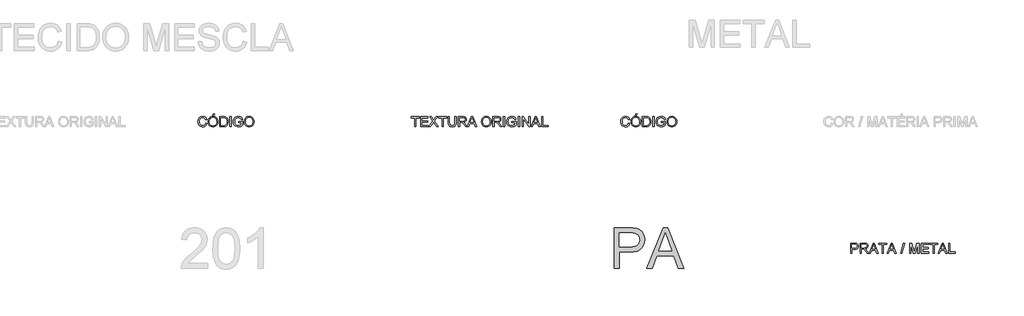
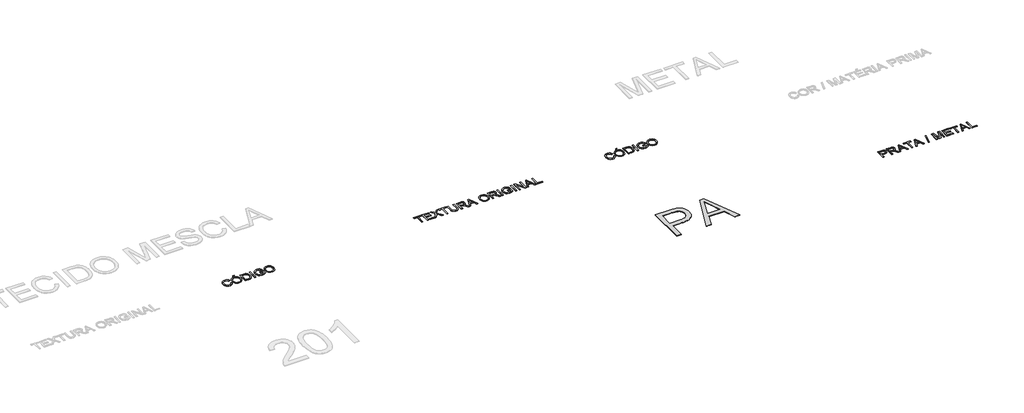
# One storey, part 16 of 19: 5 proxies.
"""IFC4 building model written with IfcOpenShell, lengths in millimetres."""

from ifc_helpers import new_model, si_unit, origin, origin_with_axes, place, context, project, spatial, polyline, outline, extrude, element, save

model = new_model("IFC4")

# Units and contexts
model_context = context("Model", 3, world=origin())
ifc_project = project(units=[si_unit("LENGTHUNIT", "METRE", prefix="MILLI")], contexts=[model_context])

# Site, building, storey
site = spatial("IfcSite", under=ifc_project)
building = spatial("IfcBuilding", under=site)
storey = spatial("IfcBuildingStorey", under=building, Name="Marelli - Linha ACTIVE - Planta Baixa", Elevation=0.0)

# Proxies
placement = place(None, origin())
element("IfcBuildingElementProxy", 1, Name="1200mm Arial", ObjectType="1200mm Arial", at=placement, inside=storey, context=model_context, shape_type="SweptSolid", body=[
    extrude(outline(polyline([(12375.3752953, -108980.5663201), (12375.3752953, -107775.0905983), (12822.1311902, -107775.0905983), (12926.1682184, -107777.9600778), (13002.246215, -107786.5685165), (13044.1755654, -107795.6092166), (13082.5548546, -107808.0160368), (13117.3840825, -107823.7889774), (13148.6632491, -107842.9280382), (13176.7234483, -107865.8286924), (13201.8957738, -107892.8864131), (13224.1802257, -107924.1012004), (13243.5768039, -107959.4730543), (13259.2853651, -107997.8339493), (13270.5057659, -108038.0158602), (13277.2380064, -108080.018787), (13279.4820866, -108123.8427297), (13273.4212307, -108197.842193), (13265.8451609, -108232.6208372), (13255.2386631, -108265.9187562), (13241.6017374, -108297.7359503), (13224.9343838, -108328.0724193), (13205.2366022, -108356.9281633), (13182.5083927, -108384.3031823), (13155.8254517, -108409.2731727), (13124.2634758, -108430.9138311), (13087.8224649, -108449.2251574), (13046.5024191, -108464.2071516), (13000.3033382, -108475.8598138), (12949.2252225, -108484.183144), (12893.2680718, -108489.1771421), (12832.4318861, -108490.8418081), (12526.0597605, -108490.8418081), (12526.0597605, -108980.5663201), (12375.3752953, -108980.5663201)]), holes=[polyline([(12526.0597605, -108340.1573429), (12841.2610539, -108340.1573429), (12913.733807, -108336.6992521), (12974.8757946, -108326.3249798), (13024.6870167, -108309.0345261), (13063.1674734, -108284.8278908), (13091.8806632, -108254.3488675), (13112.3900844, -108218.2412497), (13124.6957371, -108176.5050373), (13128.7976214, -108129.1402304), (13126.3787973, -108093.9707117), (13119.1223249, -108061.4499433), (13107.0282043, -108031.5779253), (13090.0964355, -108004.3546577), (13069.2283293, -107980.6630572), (13045.3251967, -107961.3860406), (13018.3870376, -107946.523608), (12988.413852, -107936.0757594), (12930.2884968, -107928.3502375), (12837.7293868, -107925.7750635), (12526.0597605, -107925.7750635), (12526.0597605, -108340.1573429)])]), origin_with_axes(), (0.0, 0.0, 1.0), 10.0),
    extrude(outline(polyline([(13346.2894569, -108980.5663201), (13827.4791066, -107775.0905983), (13955.7963465, -107775.0905983), (14436.9859962, -108980.5663201), (14277.7666687, -108980.5663201), (14139.7373441, -108603.855157), (13643.2438034, -108603.855157), (13505.5087844, -108980.5663201), (13346.2894569, -108980.5663201)]), holes=[polyline([(13698.5732555, -108453.1706918), (14084.7021976, -108453.1706918), (13976.1034327, -108156.8049565), (13891.6377266, -107925.7750635), (13816.5897996, -108130.906064), (13698.5732555, -108453.1706918)])]), origin_with_axes(), (0.0, 0.0, 1.0), 10.0),
])
element("IfcBuildingElementProxy", 2, Name="300mm Arial", ObjectType="300mm Arial", at=placement, inside=storey, context=model_context, shape_type="SweptSolid", body=[
    extrude(outline(polyline([(12799.1753537, -104673.4390831), (12836.84647, -104683.1511677), (12829.3922611, -104706.5783531), (12819.4640457, -104727.0486868), (12807.061824, -104744.5621691), (12792.1855958, -104759.1187998), (12775.1710535, -104770.5622291), (12756.3538895, -104778.7361071), (12735.7341036, -104783.640434), (12713.311696, -104785.2752096), (12669.616512, -104780.3271968), (12634.9160429, -104765.4831583), (12608.3181746, -104741.2581289), (12588.9307935, -104708.1671434), (12577.0941903, -104669.2636224), (12573.1486559, -104627.6009865), (12577.6092251, -104583.6574822), (12590.9909326, -104545.7104543), (12612.5948028, -104514.9647166), (12641.7218598, -104492.6250824), (12676.2659791, -104479.0226457), (12714.1210364, -104474.4885001), (12755.4249874, -104480.3562179), (12773.3937236, -104487.6908652), (12789.5736336, -104497.9593714), (12803.698003, -104510.8904235), (12815.5001172, -104526.2127086), (12832.1375805, -104564.0309777), (12794.4664642, -104573.0072984), (12781.4066533, -104545.5357104), (12763.5643766, -104526.6909552), (12740.7189047, -104515.7924511), (12712.6495084, -104512.1596164), (12680.294287, -104516.1879242), (12653.7148128, -104528.2728478), (12633.5456824, -104547.1451941), (12620.4214922, -104571.5357704), (12613.2202022, -104599.1085259), (12610.8197722, -104627.5274101), (12613.6616606, -104662.3290468), (12622.1873258, -104692.421794), (12636.7186646, -104716.6560205), (12657.5775738, -104733.8820949), (12682.5843524, -104744.1735937), (12709.5592997, -104747.6040933), (12741.0040132, -104742.931992), (12767.2064083, -104728.9156879), (12786.9892626, -104705.7023341), (12799.1753537, -104673.4390831)])), origin_with_axes(), (0.0, 0.0, 1.0), 10.0),
    extrude(outline(polyline([(12874.5175863, -104633.8549804), (12877.0283809, -104598.5061192), (12884.5607648, -104567.213157), (12897.1147379, -104539.9760937), (12914.6903002, -104516.7949295), (12936.2343895, -104498.2858666), (12960.6939437, -104485.0651074), (12988.0689626, -104477.1326519), (13018.3594464, -104474.4885001), (13057.8883668, -104479.454907), (13093.333797, -104494.3541278), (13122.7643567, -104518.1376988), (13144.2486652, -104549.7571563), (13157.3820524, -104587.68579), (13161.7598481, -104630.3968896), (13157.1521262, -104673.6782064), (13143.3289602, -104712.140269), (13121.0537054, -104743.8149088), (13091.0897169, -104766.7339571), (13055.9477893, -104780.6398965), (13018.1387172, -104785.2752096), (12978.0027916, -104780.1524528), (12942.3550262, -104764.7841825), (12912.998043, -104740.5591531), (12891.7344637, -104708.8661192), (12878.8218057, -104672.3998164), (12874.5175863, -104633.8549804)]), holes=[polyline([(12912.1887026, -104634.2228624), (12914.0717986, -104659.1974513), (12919.7210865, -104681.3669401), (12929.1365663, -104700.7313286), (12942.318238, -104717.2906169), (12958.3417982, -104730.5527628), (12976.2829432, -104740.0257242), (12996.1416732, -104745.709501), (13017.917988, -104747.6040933), (13040.0667834, -104745.6911069), (13060.1600381, -104739.9521478), (13078.1977522, -104730.3872159), (13094.1799256, -104716.9963113), (13107.2650283, -104700.0875351), (13116.6115303, -104679.9689885), (13122.2194315, -104656.6406715), (13124.0887318, -104630.102584), (13120.8881585, -104596.7540812), (13111.2864384, -104567.9305269), (13095.531892, -104544.358488), (13073.8728395, -104526.7645316), (13047.7440208, -104515.8108452), (13018.5801756, -104512.1596164), (12997.5603181, -104513.9185522), (12978.0579739, -104519.1953595), (12960.0731428, -104527.9900385), (12943.605825, -104540.302589), (12929.860834, -104556.7262208), (12920.0429832, -104577.8541437), (12914.1522728, -104603.6863575), (12912.1887026, -104634.2228624)])]), origin_with_axes(), (0.0, 0.0, 1.0), 10.0),
    extrude(outline(polyline([(12992.2398248, -104460.3618315), (13020.493162, -104403.855157), (13067.5820574, -104403.855157), (13020.493162, -104460.3618315), (12992.2398248, -104460.3618315)])), origin_with_axes(), (0.0, 0.0, 1.0), 10.0),
    extrude(outline(polyline([(13213.5576331, -104780.5663201), (13213.5576331, -104479.1973896), (13317.5210849, -104479.1973896), (13371.3054326, -104483.5383972), (13395.3281269, -104491.9077126), (13415.5984248, -104505.0962821), (13436.4389398, -104528.0521186), (13451.2829783, -104556.5997614), (13460.1673285, -104590.1873876), (13463.1287786, -104628.2631741), (13461.1238217, -104660.6091985), (13455.1089511, -104689.0740679), (13445.9486894, -104713.3082943), (13434.5075594, -104732.9623899), (13421.3373839, -104748.477813), (13406.9899861, -104760.2960221), (13390.5180698, -104769.0608107), (13370.9743388, -104775.4159721), (13322.52428, -104780.5663201), (13213.5576331, -104780.5663201)]), holes=[polyline([(13251.2287494, -104742.8952038), (13317.8889669, -104742.8952038), (13345.4617224, -104741.5340404), (13366.3758139, -104737.4505502), (13382.1579515, -104730.8838566), (13394.3348455, -104722.0730828), (13407.4222475, -104705.7667134), (13417.2538938, -104684.6594839), (13423.4067202, -104658.6594239), (13425.4576623, -104627.6745629), (13421.4385515, -104586.6189322), (13409.3812191, -104556.3054558), (13391.5665335, -104535.4833349), (13370.275363, -104522.9017706), (13348.6071135, -104518.3768221), (13316.8588973, -104516.8685059), (13251.2287494, -104516.8685059), (13251.2287494, -104742.8952038)])]), origin_with_axes(), (0.0, 0.0, 1.0), 10.0),
    extrude(outline(polyline([(13519.6354531, -104780.5663201), (13519.6354531, -104479.1973896), (13557.3065694, -104479.1973896), (13557.3065694, -104780.5663201), (13519.6354531, -104780.5663201)])), origin_with_axes(), (0.0, 0.0, 1.0), 10.0),
    extrude(outline(polyline([(13773.9154881, -104662.8440816), (13773.9154881, -104625.1729653), (13896.3466161, -104625.1729653), (13896.3466161, -104737.8184322), (13866.5941598, -104758.5117945), (13835.9036043, -104773.355833), (13804.3485262, -104782.2953654), (13772.0025017, -104785.2752096), (13729.7420575, -104780.5387289), (13691.5467094, -104766.3292869), (13659.8168873, -104743.1435241), (13636.9530213, -104711.4780814), (13623.1298553, -104673.4942654), (13618.5221334, -104631.3533828), (13623.1114612, -104588.9089976), (13636.8794449, -104549.4260625), (13659.2558673, -104516.3074859), (13689.6705112, -104492.9561762), (13726.7162281, -104479.1054191), (13768.9858694, -104474.4885001), (13800.0167157, -104477.1648416), (13827.920565, -104485.1938661), (13851.4190275, -104497.9961596), (13869.2337131, -104514.9923078), (13882.4130855, -104537.0008481), (13892.0056086, -104564.8403181), (13857.2775482, -104574.6259792), (13849.5244352, -104554.7695485), (13840.0974591, -104539.7875542), (13827.6262594, -104528.493577), (13810.7404758, -104519.7011973), (13790.6081337, -104514.0450116), (13768.3972582, -104512.1596164), (13742.3971982, -104514.1921644), (13720.1679286, -104520.2898085), (13701.792223, -104529.6891935), (13687.3528547, -104541.6269642), (13667.9654735, -104570.6528536), (13659.1363056, -104599.0901318), (13656.1932497, -104629.8082784), (13659.7341139, -104665.8331228), (13670.3567065, -104695.4752146), (13687.7391307, -104718.5230216), (13711.5594899, -104734.7650117), (13739.4357481, -104744.3943229), (13768.9858694, -104747.6040933), (13795.0778999, -104745.1852692), (13820.5261369, -104737.9287968), (13842.6266478, -104727.9316036), (13858.6754998, -104717.2906169), (13858.6754998, -104662.8440816), (13773.9154881, -104662.8440816)])), origin_with_axes(), (0.0, 0.0, 1.0), 10.0),
    extrude(outline(polyline([(13943.4355115, -104633.8549804), (13945.9463061, -104598.5061192), (13953.47869, -104567.213157), (13966.0326631, -104539.9760937), (13983.6082254, -104516.7949295), (14005.1523147, -104498.2858666), (14029.6118689, -104485.0651074), (14056.9868878, -104477.1326519), (14087.2773716, -104474.4885001), (14126.806292, -104479.454907), (14162.2517222, -104494.3541278), (14191.6822818, -104518.1376988), (14213.1665904, -104549.7571563), (14226.2999776, -104587.68579), (14230.6777733, -104630.3968896), (14226.0700513, -104673.6782064), (14212.2468854, -104712.140269), (14189.9716306, -104743.8149088), (14160.0076421, -104766.7339571), (14124.8657145, -104780.6398965), (14087.0566424, -104785.2752096), (14046.9207167, -104780.1524528), (14011.2729514, -104764.7841825), (13981.9159682, -104740.5591531), (13960.6523889, -104708.8661192), (13947.7397308, -104672.3998164), (13943.4355115, -104633.8549804)]), holes=[polyline([(13981.1066278, -104634.2228624), (13982.9897238, -104659.1974513), (13988.6390117, -104681.3669401), (13998.0544915, -104700.7313286), (14011.2361632, -104717.2906169), (14027.2597234, -104730.5527628), (14045.2008684, -104740.0257242), (14065.0595984, -104745.709501), (14086.8359132, -104747.6040933), (14108.9847086, -104745.6911069), (14129.0779633, -104739.9521478), (14147.1156774, -104730.3872159), (14163.0978508, -104716.9963113), (14176.1829535, -104700.0875351), (14185.5294555, -104679.9689885), (14191.1373566, -104656.6406715), (14193.006657, -104630.102584), (14189.8060837, -104596.7540812), (14180.2043636, -104567.9305269), (14164.4498171, -104544.358488), (14142.7907647, -104526.7645316), (14116.661946, -104515.8108452), (14087.4981008, -104512.1596164), (14066.4782433, -104513.9185522), (14046.975899, -104519.1953595), (14028.991068, -104527.9900385), (14012.5237502, -104540.302589), (13998.7787591, -104556.7262208), (13988.9609084, -104577.8541437), (13983.070198, -104603.6863575), (13981.1066278, -104634.2228624)])]), origin_with_axes(), (0.0, 0.0, 1.0), 10.0),
])
element("IfcBuildingElementProxy", 3, Name="300mm Arial", ObjectType="300mm Arial", at=placement, inside=storey, context=model_context, shape_type="SweptSolid", body=[
    extrude(outline(polyline([(6478.3318382, -104780.5663201), (6478.3318382, -104516.8685059), (6379.4451579, -104516.8685059), (6379.4451579, -104479.1973896), (6614.8896348, -104479.1973896), (6614.8896348, -104516.8685059), (6516.0029545, -104516.8685059), (6516.0029545, -104780.5663201), (6478.3318382, -104780.5663201)])), origin_with_axes(), (0.0, 0.0, 1.0), 10.0),
    extrude(outline(polyline([(6657.2696407, -104780.5663201), (6657.2696407, -104479.1973896), (6873.8785594, -104479.1973896), (6873.8785594, -104516.8685059), (6694.940757, -104516.8685059), (6694.940757, -104606.3374072), (6864.4607804, -104606.3374072), (6864.4607804, -104644.0085235), (6694.940757, -104644.0085235), (6694.940757, -104742.8952038), (6878.587449, -104742.8952038), (6878.587449, -104780.5663201), (6657.2696407, -104780.5663201)])), origin_with_axes(), (0.0, 0.0, 1.0), 10.0),
    extrude(outline(polyline([(6902.1318967, -104780.5663201), (7018.3090307, -104616.3437974), (6920.9674548, -104479.1973896), (6966.1433638, -104479.1973896), (7020.9577811, -104556.3790322), (7039.4254573, -104586.4717794), (7061.0569186, -104555.8639974), (7115.2827247, -104479.1973896), (7161.1208213, -104479.1973896), (7063.7792453, -104616.7852558), (7179.9563794, -104780.5663201), (7134.7804704, -104780.5663201), (7057.3780986, -104671.3789439), (7041.2648672, -104648.717413), (7023.5329551, -104673.5862359), (6947.9699933, -104780.5663201), (6902.1318967, -104780.5663201)])), origin_with_axes(), (0.0, 0.0, 1.0), 10.0),
    extrude(outline(polyline([(7292.9697283, -104780.5663201), (7292.9697283, -104516.8685059), (7194.083048, -104516.8685059), (7194.083048, -104479.1973896), (7429.5275249, -104479.1973896), (7429.5275249, -104516.8685059), (7330.6408446, -104516.8685059), (7330.6408446, -104780.5663201), (7292.9697283, -104780.5663201)])), origin_with_axes(), (0.0, 0.0, 1.0), 10.0),
    extrude(outline(polyline([(7669.6808914, -104479.1973896), (7707.3520077, -104479.1973896), (7707.3520077, -104653.0584205), (7704.7952278, -104693.7737604), (7697.1248882, -104725.1265034), (7682.7958845, -104749.3147446), (7660.2631123, -104768.5365788), (7629.4713893, -104781.0905519), (7590.3655332, -104785.2752096), (7552.1150028, -104781.6331779), (7521.5348119, -104770.7070826), (7498.6157636, -104752.8740029), (7483.3486608, -104728.5110178), (7474.7678133, -104695.8338995), (7471.9075308, -104653.0584205), (7471.9075308, -104479.1973896), (7509.5786471, -104479.1973896), (7509.5786471, -104651.7340454), (7511.4364512, -104685.588386), (7517.0098634, -104709.1604248), (7527.1082242, -104725.4851883), (7542.5408739, -104737.597703), (7562.664019, -104745.1024957), (7586.8338661, -104747.6040933), (7625.1487759, -104742.6560805), (7639.4915752, -104736.4710644), (7650.624604, -104727.812042), (7658.9617298, -104715.6351479), (7664.9168196, -104698.8965171), (7669.6808914, -104651.7340454), (7669.6808914, -104479.1973896)])), origin_with_axes(), (0.0, 0.0, 1.0), 10.0),
    extrude(outline(polyline([(7773.2764612, -104780.5663201), (7773.2764612, -104479.1973896), (7903.1388055, -104479.1973896), (7938.0416098, -104481.2299376), (7963.4346645, -104487.3275817), (7981.9943112, -104498.5847708), (7996.3968913, -104516.0959537), (8005.6399264, -104537.8101885), (8008.7209382, -104561.6765329), (8003.6165755, -104591.36461), (7988.3034874, -104615.9759154), (7976.7037083, -104626.0052983), (7962.3218215, -104634.0205273), (7925.2117252, -104644.0085235), (7946.6224574, -104660.1217548), (7977.156663, -104698.8965171), (8027.4093435, -104780.5663201), (7983.6313861, -104780.5663201), (7944.4151654, -104718.0999573), (7916.0882518, -104676.750021), (7896.1858358, -104657.2154871), (7878.2699827, -104650.0417882), (7856.4177921, -104648.717413), (7810.9475775, -104648.717413), (7810.9475775, -104780.5663201), (7773.2764612, -104780.5663201)]), holes=[polyline([(7810.9475775, -104611.0462967), (7895.2661308, -104611.0462967), (7919.4819632, -104609.7127245), (7938.2715361, -104605.7120078), (7952.4165988, -104598.7774322), (7962.6989006, -104588.6422832), (7968.9620915, -104576.3826157), (7971.0498218, -104563.0744845), (7967.0674992, -104544.6987789), (7955.1205315, -104529.8915286), (7934.565125, -104520.1242616), (7904.7574863, -104516.8685059), (7810.9475775, -104516.8685059), (7810.9475775, -104611.0462967)])]), origin_with_axes(), (0.0, 0.0, 1.0), 10.0),
    extrude(outline(polyline([(8039.5494493, -104780.5663201), (8159.8468618, -104479.1973896), (8191.9261717, -104479.1973896), (8312.2235842, -104780.5663201), (8272.4187523, -104780.5663201), (8237.9114211, -104686.3885293), (8113.788036, -104686.3885293), (8079.3542812, -104780.5663201), (8039.5494493, -104780.5663201)]), holes=[polyline([(8127.620399, -104648.717413), (8224.1526345, -104648.717413), (8197.0029433, -104574.6259792), (8175.8865168, -104516.8685059), (8157.124535, -104568.1512561), (8127.620399, -104648.717413)])]), origin_with_axes(), (0.0, 0.0, 1.0), 10.0),
    extrude(outline(polyline([(8456.0654443, -104633.8549804), (8458.5762389, -104598.5061192), (8466.1086228, -104567.213157), (8478.6625958, -104539.9760937), (8496.2381582, -104516.7949295), (8517.7822475, -104498.2858666), (8542.2418017, -104485.0651074), (8569.6168206, -104477.1326519), (8599.9073044, -104474.4885001), (8639.4362248, -104479.454907), (8674.881655, -104494.3541278), (8704.3122146, -104518.1376988), (8725.7965231, -104549.7571563), (8738.9299104, -104587.68579), (8743.3077061, -104630.3968896), (8738.6999841, -104673.6782064), (8724.8768182, -104712.140269), (8702.6015634, -104743.8149088), (8672.6375748, -104766.7339571), (8637.4956473, -104780.6398965), (8599.6865752, -104785.2752096), (8559.5506495, -104780.1524528), (8523.9028842, -104764.7841825), (8494.545901, -104740.5591531), (8473.2823217, -104708.8661192), (8460.3696636, -104672.3998164), (8456.0654443, -104633.8549804)]), holes=[polyline([(8493.7365606, -104634.2228624), (8495.6196566, -104659.1974513), (8501.2689444, -104681.3669401), (8510.6844243, -104700.7313286), (8523.866096, -104717.2906169), (8539.8896561, -104730.5527628), (8557.8308012, -104740.0257242), (8577.6895312, -104745.709501), (8599.465846, -104747.6040933), (8621.6146414, -104745.6911069), (8641.7078961, -104739.9521478), (8659.7456102, -104730.3872159), (8675.7277836, -104716.9963113), (8688.8128863, -104700.0875351), (8698.1593883, -104679.9689885), (8703.7672894, -104656.6406715), (8705.6365898, -104630.102584), (8702.4360165, -104596.7540812), (8692.8342964, -104567.9305269), (8677.0797499, -104544.358488), (8655.4206975, -104526.7645316), (8629.2918788, -104515.8108452), (8600.1280336, -104512.1596164), (8579.1081761, -104513.9185522), (8559.6058318, -104519.1953595), (8541.6210008, -104527.9900385), (8525.153683, -104540.302589), (8511.4086919, -104556.7262208), (8501.5908412, -104577.8541437), (8495.7001307, -104603.6863575), (8493.7365606, -104634.2228624)])]), origin_with_axes(), (0.0, 0.0, 1.0), 10.0),
    extrude(outline(polyline([(8795.105491, -104780.5663201), (8795.105491, -104479.1973896), (8924.9678353, -104479.1973896), (8959.8706396, -104481.2299376), (8985.2636943, -104487.3275817), (9003.823341, -104498.5847708), (9018.2259211, -104516.0959537), (9027.4689562, -104537.8101885), (9030.549968, -104561.6765329), (9025.4456053, -104591.36461), (9010.1325172, -104615.9759154), (8998.5327381, -104626.0052983), (8984.1508513, -104634.0205273), (8947.040755, -104644.0085235), (8968.4514872, -104660.1217548), (8998.9856928, -104698.8965171), (9049.2383733, -104780.5663201), (9005.4604159, -104780.5663201), (8966.2441952, -104718.0999573), (8937.9172816, -104676.750021), (8918.0148656, -104657.2154871), (8900.0990125, -104650.0417882), (8878.246822, -104648.717413), (8832.7766073, -104648.717413), (8832.7766073, -104780.5663201), (8795.105491, -104780.5663201)]), holes=[polyline([(8832.7766073, -104611.0462967), (8917.0951606, -104611.0462967), (8941.310993, -104609.7127245), (8960.1005659, -104605.7120078), (8974.2456286, -104598.7774322), (8984.5279304, -104588.6422832), (8990.7911213, -104576.3826157), (8992.8788516, -104563.0744845), (8988.8965291, -104544.6987789), (8976.9495613, -104529.8915286), (8956.3941548, -104520.1242616), (8926.5865161, -104516.8685059), (8832.7766073, -104516.8685059), (8832.7766073, -104611.0462967)])]), origin_with_axes(), (0.0, 0.0, 1.0), 10.0),
    extrude(outline(polyline([(9101.183311, -104780.5663201), (9101.183311, -104479.1973896), (9138.8544273, -104479.1973896), (9138.8544273, -104780.5663201), (9101.183311, -104780.5663201)])), origin_with_axes(), (0.0, 0.0, 1.0), 10.0),
    extrude(outline(polyline([(9355.4633461, -104662.8440816), (9355.4633461, -104625.1729653), (9477.8944741, -104625.1729653), (9477.8944741, -104737.8184322), (9448.1420177, -104758.5117945), (9417.4514623, -104773.355833), (9385.8963841, -104782.2953654), (9353.5503597, -104785.2752096), (9311.2899155, -104780.5387289), (9273.0945674, -104766.3292869), (9241.3647453, -104743.1435241), (9218.5008793, -104711.4780814), (9204.6777133, -104673.4942654), (9200.0699913, -104631.3533828), (9204.6593192, -104588.9089976), (9218.4273029, -104549.4260625), (9240.8037252, -104516.3074859), (9271.2183692, -104492.9561762), (9308.2640861, -104479.1054191), (9350.5337274, -104474.4885001), (9381.5645737, -104477.1648416), (9409.468423, -104485.1938661), (9432.9668854, -104497.9961596), (9450.781571, -104514.9923078), (9463.9609435, -104537.0008481), (9473.5534665, -104564.8403181), (9438.8254062, -104574.6259792), (9431.0722932, -104554.7695485), (9421.645317, -104539.7875542), (9409.1741174, -104528.493577), (9392.2883338, -104519.7011973), (9372.1559916, -104514.0450116), (9349.9451162, -104512.1596164), (9323.9450562, -104514.1921644), (9301.7157866, -104520.2898085), (9283.3400809, -104529.6891935), (9268.9007126, -104541.6269642), (9249.5133315, -104570.6528536), (9240.6841636, -104599.0901318), (9237.7411076, -104629.8082784), (9241.2819718, -104665.8331228), (9251.9045645, -104695.4752146), (9269.2869887, -104718.5230216), (9293.1073479, -104734.7650117), (9320.9836061, -104744.3943229), (9350.5337274, -104747.6040933), (9376.6257579, -104745.1852692), (9402.0739949, -104737.9287968), (9424.1745057, -104727.9316036), (9440.2233578, -104717.2906169), (9440.2233578, -104662.8440816), (9355.4633461, -104662.8440816)])), origin_with_axes(), (0.0, 0.0, 1.0), 10.0),
    extrude(outline(polyline([(9543.8189276, -104780.5663201), (9543.8189276, -104479.1973896), (9581.4900439, -104479.1973896), (9581.4900439, -104780.5663201), (9543.8189276, -104780.5663201)])), origin_with_axes(), (0.0, 0.0, 1.0), 10.0),
    extrude(outline(polyline([(9656.8322765, -104780.5663201), (9656.8322765, -104479.1973896), (9697.1521432, -104479.1973896), (9854.6056372, -104717.9528045), (9854.6056372, -104479.1973896), (9892.2767535, -104479.1973896), (9892.2767535, -104780.5663201), (9851.9568868, -104780.5663201), (9694.5033928, -104541.7373288), (9694.5033928, -104780.5663201), (9656.8322765, -104780.5663201)])), origin_with_axes(), (0.0, 0.0, 1.0), 10.0),
    extrude(outline(polyline([(9923.1052647, -104780.5663201), (10043.4026771, -104479.1973896), (10075.4819871, -104479.1973896), (10195.7793995, -104780.5663201), (10155.9745676, -104780.5663201), (10121.4672365, -104686.3885293), (9997.3438513, -104686.3885293), (9962.9100965, -104780.5663201), (9923.1052647, -104780.5663201)]), holes=[polyline([(10011.1762143, -104648.717413), (10107.7084498, -104648.717413), (10080.5587586, -104574.6259792), (10059.4423321, -104516.8685059), (10040.6803503, -104568.1512561), (10011.1762143, -104648.717413)])]), origin_with_axes(), (0.0, 0.0, 1.0), 10.0),
    extrude(outline(polyline([(10236.0256897, -104780.5663201), (10236.0256897, -104479.1973896), (10273.6968061, -104479.1973896), (10273.6968061, -104742.8952038), (10424.3812713, -104742.8952038), (10424.3812713, -104780.5663201), (10236.0256897, -104780.5663201)])), origin_with_axes(), (0.0, 0.0, 1.0), 10.0),
])
element("IfcBuildingElementProxy", 4, Name="300mm Arial", ObjectType="300mm Arial", at=placement, inside=storey, context=model_context, shape_type="SweptSolid", body=[
    extrude(outline(polyline([(19371.5241147, -108530.5663201), (19371.5241147, -108229.1973896), (19483.2130884, -108229.1973896), (19528.2418446, -108232.0668692), (19548.3190045, -108237.4287493), (19564.8461031, -108246.1567496), (19578.1542343, -108258.6463433), (19588.5744918, -108275.2930036), (19595.3067323, -108294.9287051), (19597.5508125, -108316.3854225), (19596.0355985, -108334.8852883), (19591.4899566, -108351.9044291), (19583.9138868, -108367.4428449), (19573.307389, -108381.5005356), (19558.7461598, -108393.1531978), (19539.3058956, -108401.476528), (19514.9865965, -108406.470526), (19485.7882624, -108408.1351921), (19409.195231, -108408.1351921), (19409.195231, -108530.5663201), (19371.5241147, -108530.5663201)]), holes=[polyline([(19409.195231, -108370.4640758), (19487.9955543, -108370.4640758), (19521.3992395, -108367.005985), (19543.4721592, -108356.6317128), (19555.7778119, -108339.9850525), (19559.8796962, -108317.7097977), (19557.4608721, -108300.7872259), (19550.2043997, -108286.5134045), (19539.01159, -108275.7712502), (19524.7837539, -108269.4436799), (19487.1126375, -108266.8685059), (19409.195231, -108266.8685059), (19409.195231, -108370.4640758)])]), origin_with_axes(), (0.0, 0.0, 1.0), 10.0),
    extrude(outline(polyline([(19649.3485974, -108530.5663201), (19649.3485974, -108229.1973896), (19779.2109417, -108229.1973896), (19814.113746, -108231.2299376), (19839.5068007, -108237.3275817), (19858.0664474, -108248.5847708), (19872.4690275, -108266.0959537), (19881.7120626, -108287.8101885), (19884.7930743, -108311.6765329), (19879.6887116, -108341.36461), (19864.3756236, -108365.9759154), (19852.7758444, -108376.0052983), (19838.3939577, -108384.0205273), (19801.2838614, -108394.0085235), (19822.6945935, -108410.1217548), (19853.2287991, -108448.8965171), (19903.4814797, -108530.5663201), (19859.7035223, -108530.5663201), (19820.4873016, -108468.0999573), (19792.1603879, -108426.750021), (19772.257972, -108407.2154871), (19754.3421188, -108400.0417882), (19732.4899283, -108398.717413), (19687.0197137, -108398.717413), (19687.0197137, -108530.5663201), (19649.3485974, -108530.5663201)]), holes=[polyline([(19687.0197137, -108361.0462967), (19771.338267, -108361.0462967), (19795.5540994, -108359.7127245), (19814.3436723, -108355.7120078), (19828.488735, -108348.7774322), (19838.7710367, -108338.6422832), (19845.0342277, -108326.3826157), (19847.121958, -108313.0744845), (19843.1396354, -108294.6987789), (19831.1926676, -108279.8915286), (19810.6372612, -108270.1242616), (19780.8296225, -108266.8685059), (19687.0197137, -108266.8685059), (19687.0197137, -108361.0462967)])]), origin_with_axes(), (0.0, 0.0, 1.0), 10.0),
    extrude(outline(polyline([(19915.6215855, -108530.5663201), (20035.918998, -108229.1973896), (20067.9983079, -108229.1973896), (20188.2957204, -108530.5663201), (20148.4908885, -108530.5663201), (20113.9835573, -108436.3885293), (19989.8601722, -108436.3885293), (19955.4264174, -108530.5663201), (19915.6215855, -108530.5663201)]), holes=[polyline([(20003.6925352, -108398.717413), (20100.2247707, -108398.717413), (20073.0750795, -108324.6259792), (20051.9586529, -108266.8685059), (20033.1966712, -108318.1512561), (20003.6925352, -108398.717413)])]), origin_with_axes(), (0.0, 0.0, 1.0), 10.0),
    extrude(outline(polyline([(20303.8842432, -108530.5663201), (20303.8842432, -108266.8685059), (20204.9975629, -108266.8685059), (20204.9975629, -108229.1973896), (20440.4420398, -108229.1973896), (20440.4420398, -108266.8685059), (20341.5553595, -108266.8685059), (20341.5553595, -108530.5663201), (20303.8842432, -108530.5663201)])), origin_with_axes(), (0.0, 0.0, 1.0), 10.0),
    extrude(outline(polyline([(20447.7261034, -108530.5663201), (20568.0235158, -108229.1973896), (20600.1028258, -108229.1973896), (20720.4002382, -108530.5663201), (20680.5954063, -108530.5663201), (20646.0880752, -108436.3885293), (20521.96469, -108436.3885293), (20487.5309352, -108530.5663201), (20447.7261034, -108530.5663201)]), holes=[polyline([(20535.797053, -108398.717413), (20632.3292885, -108398.717413), (20605.1795973, -108324.6259792), (20584.0631708, -108266.8685059), (20565.301189, -108318.1512561), (20535.797053, -108398.717413)])]), origin_with_axes(), (0.0, 0.0, 1.0), 10.0),
    extrude(outline(polyline([(20845.4065401, -108530.5663201), (20930.1665518, -108229.1973896), (20964.1588482, -108229.1973896), (20879.3988365, -108530.5663201), (20845.4065401, -108530.5663201)])), origin_with_axes(), (0.0, 0.0, 1.0), 10.0),
    extrude(outline(polyline([(21113.8132438, -108530.5663201), (21113.8132438, -108229.1973896), (21178.6340514, -108229.1973896), (21240.2910738, -108441.6124536), (21252.7254852, -108485.9790223), (21266.1899662, -108437.9336337), (21326.816919, -108229.1973896), (21391.6377266, -108229.1973896), (21391.6377266, -108530.5663201), (21353.9666103, -108530.5663201), (21353.9666103, -108266.8685059), (21278.2564957, -108530.5663201), (21227.1944747, -108530.5663201), (21151.4843601, -108266.8685059), (21151.4843601, -108530.5663201), (21113.8132438, -108530.5663201)])), origin_with_axes(), (0.0, 0.0, 1.0), 10.0),
    extrude(outline(polyline([(21457.5621801, -108530.5663201), (21457.5621801, -108229.1973896), (21674.1710989, -108229.1973896), (21674.1710989, -108266.8685059), (21495.2332964, -108266.8685059), (21495.2332964, -108356.3374072), (21664.7533198, -108356.3374072), (21664.7533198, -108394.0085235), (21495.2332964, -108394.0085235), (21495.2332964, -108492.8952038), (21678.8799884, -108492.8952038), (21678.8799884, -108530.5663201), (21457.5621801, -108530.5663201)])), origin_with_axes(), (0.0, 0.0, 1.0), 10.0),
    extrude(outline(polyline([(21810.7288955, -108530.5663201), (21810.7288955, -108266.8685059), (21711.8422152, -108266.8685059), (21711.8422152, -108229.1973896), (21947.2866921, -108229.1973896), (21947.2866921, -108266.8685059), (21848.4000118, -108266.8685059), (21848.4000118, -108530.5663201), (21810.7288955, -108530.5663201)])), origin_with_axes(), (0.0, 0.0, 1.0), 10.0),
    extrude(outline(polyline([(21954.5707556, -108530.5663201), (22074.868168, -108229.1973896), (22106.947478, -108229.1973896), (22227.2448904, -108530.5663201), (22187.4400585, -108530.5663201), (22152.9327274, -108436.3885293), (22028.8093422, -108436.3885293), (21994.3755875, -108530.5663201), (21954.5707556, -108530.5663201)]), holes=[polyline([(22042.6417052, -108398.717413), (22139.1739408, -108398.717413), (22112.0242495, -108324.6259792), (22090.907823, -108266.8685059), (22072.1458413, -108318.1512561), (22042.6417052, -108398.717413)])]), origin_with_axes(), (0.0, 0.0, 1.0), 10.0),
    extrude(outline(polyline([(22267.4911807, -108530.5663201), (22267.4911807, -108229.1973896), (22305.162297, -108229.1973896), (22305.162297, -108492.8952038), (22455.8467622, -108492.8952038), (22455.8467622, -108530.5663201), (22267.4911807, -108530.5663201)])), origin_with_axes(), (0.0, 0.0, 1.0), 10.0),
])
element("IfcBuildingElementProxy", 5, Name="300mm Arial", ObjectType="300mm Arial", at=placement, inside=storey, context=model_context, shape_type="SweptSolid", body=[
    extrude(outline(polyline([(299.1753537, -104673.4390831), (336.84647, -104683.1511677), (329.3922611, -104706.5783531), (319.4640457, -104727.0486868), (307.061824, -104744.5621691), (292.1855958, -104759.1187998), (275.1710535, -104770.5622291), (256.3538895, -104778.7361071), (235.7341036, -104783.640434), (213.311696, -104785.2752096), (169.616512, -104780.3271968), (134.9160429, -104765.4831583), (108.3181746, -104741.2581289), (88.9307935, -104708.1671434), (77.0941903, -104669.2636224), (73.1486559, -104627.6009865), (77.6092251, -104583.6574822), (90.9909326, -104545.7104543), (112.5948028, -104514.9647166), (141.7218598, -104492.6250824), (176.2659791, -104479.0226457), (214.1210364, -104474.4885001), (255.4249874, -104480.3562179), (273.3937236, -104487.6908652), (289.5736336, -104497.9593714), (303.698003, -104510.8904235), (315.5001172, -104526.2127086), (332.1375805, -104564.0309777), (294.4664642, -104573.0072984), (281.4066533, -104545.5357104), (263.5643766, -104526.6909552), (240.7189047, -104515.7924511), (212.6495084, -104512.1596164), (180.294287, -104516.1879242), (153.7148128, -104528.2728478), (133.5456824, -104547.1451941), (120.4214922, -104571.5357704), (113.2202022, -104599.1085259), (110.8197722, -104627.5274101), (113.6616606, -104662.3290468), (122.1873258, -104692.421794), (136.7186646, -104716.6560205), (157.5775738, -104733.8820949), (182.5843524, -104744.1735937), (209.5592997, -104747.6040933), (241.0040132, -104742.931992), (267.2064083, -104728.9156879), (286.9892626, -104705.7023341), (299.1753537, -104673.4390831)])), origin_with_axes(), (0.0, 0.0, 1.0), 10.0),
    extrude(outline(polyline([(374.5175863, -104633.8549804), (377.0283809, -104598.5061192), (384.5607648, -104567.213157), (397.1147379, -104539.9760937), (414.6903002, -104516.7949295), (436.2343895, -104498.2858666), (460.6939437, -104485.0651074), (488.0689626, -104477.1326519), (518.3594464, -104474.4885001), (557.8883668, -104479.454907), (593.333797, -104494.3541278), (622.7643567, -104518.1376988), (644.2486652, -104549.7571563), (657.3820524, -104587.68579), (661.7598481, -104630.3968896), (657.1521262, -104673.6782064), (643.3289602, -104712.140269), (621.0537054, -104743.8149088), (591.0897169, -104766.7339571), (555.9477893, -104780.6398965), (518.1387172, -104785.2752096), (478.0027916, -104780.1524528), (442.3550262, -104764.7841825), (412.998043, -104740.5591531), (391.7344637, -104708.8661192), (378.8218057, -104672.3998164), (374.5175863, -104633.8549804)]), holes=[polyline([(412.1887026, -104634.2228624), (414.0717986, -104659.1974513), (419.7210865, -104681.3669401), (429.1365663, -104700.7313286), (442.318238, -104717.2906169), (458.3417982, -104730.5527628), (476.2829432, -104740.0257242), (496.1416732, -104745.709501), (517.917988, -104747.6040933), (540.0667834, -104745.6911069), (560.1600381, -104739.9521478), (578.1977522, -104730.3872159), (594.1799256, -104716.9963113), (607.2650283, -104700.0875351), (616.6115303, -104679.9689885), (622.2194315, -104656.6406715), (624.0887318, -104630.102584), (620.8881585, -104596.7540812), (611.2864384, -104567.9305269), (595.531892, -104544.358488), (573.8728395, -104526.7645316), (547.7440208, -104515.8108452), (518.5801756, -104512.1596164), (497.5603181, -104513.9185522), (478.0579739, -104519.1953595), (460.0731428, -104527.9900385), (443.605825, -104540.302589), (429.860834, -104556.7262208), (420.0429832, -104577.8541437), (414.1522728, -104603.6863575), (412.1887026, -104634.2228624)])]), origin_with_axes(), (0.0, 0.0, 1.0), 10.0),
    extrude(outline(polyline([(492.2398248, -104460.3618315), (520.493162, -104403.855157), (567.5820574, -104403.855157), (520.493162, -104460.3618315), (492.2398248, -104460.3618315)])), origin_with_axes(), (0.0, 0.0, 1.0), 10.0),
    extrude(outline(polyline([(713.5576331, -104780.5663201), (713.5576331, -104479.1973896), (817.5210849, -104479.1973896), (871.3054326, -104483.5383972), (895.3281269, -104491.9077126), (915.5984248, -104505.0962821), (936.4389398, -104528.0521186), (951.2829783, -104556.5997614), (960.1673285, -104590.1873876), (963.1287786, -104628.2631741), (961.1238217, -104660.6091985), (955.1089511, -104689.0740679), (945.9486894, -104713.3082943), (934.5075594, -104732.9623899), (921.3373839, -104748.477813), (906.9899861, -104760.2960221), (890.5180698, -104769.0608107), (870.9743388, -104775.4159721), (822.52428, -104780.5663201), (713.5576331, -104780.5663201)]), holes=[polyline([(751.2287494, -104742.8952038), (817.8889669, -104742.8952038), (845.4617224, -104741.5340404), (866.3758139, -104737.4505502), (882.1579515, -104730.8838566), (894.3348455, -104722.0730828), (907.4222475, -104705.7667134), (917.2538938, -104684.6594839), (923.4067202, -104658.6594239), (925.4576623, -104627.6745629), (921.4385515, -104586.6189322), (909.3812191, -104556.3054558), (891.5665335, -104535.4833349), (870.275363, -104522.9017706), (848.6071135, -104518.3768221), (816.8588973, -104516.8685059), (751.2287494, -104516.8685059), (751.2287494, -104742.8952038)])]), origin_with_axes(), (0.0, 0.0, 1.0), 10.0),
    extrude(outline(polyline([(1019.6354531, -104780.5663201), (1019.6354531, -104479.1973896), (1057.3065694, -104479.1973896), (1057.3065694, -104780.5663201), (1019.6354531, -104780.5663201)])), origin_with_axes(), (0.0, 0.0, 1.0), 10.0),
    extrude(outline(polyline([(1273.9154881, -104662.8440816), (1273.9154881, -104625.1729653), (1396.3466161, -104625.1729653), (1396.3466161, -104737.8184322), (1366.5941598, -104758.5117945), (1335.9036043, -104773.355833), (1304.3485262, -104782.2953654), (1272.0025017, -104785.2752096), (1229.7420575, -104780.5387289), (1191.5467094, -104766.3292869), (1159.8168873, -104743.1435241), (1136.9530213, -104711.4780814), (1123.1298553, -104673.4942654), (1118.5221334, -104631.3533828), (1123.1114612, -104588.9089976), (1136.8794449, -104549.4260625), (1159.2558673, -104516.3074859), (1189.6705112, -104492.9561762), (1226.7162281, -104479.1054191), (1268.9858694, -104474.4885001), (1300.0167157, -104477.1648416), (1327.920565, -104485.1938661), (1351.4190275, -104497.9961596), (1369.2337131, -104514.9923078), (1382.4130855, -104537.0008481), (1392.0056086, -104564.8403181), (1357.2775482, -104574.6259792), (1349.5244352, -104554.7695485), (1340.0974591, -104539.7875542), (1327.6262594, -104528.493577), (1310.7404758, -104519.7011973), (1290.6081337, -104514.0450116), (1268.3972582, -104512.1596164), (1242.3971982, -104514.1921644), (1220.1679286, -104520.2898085), (1201.792223, -104529.6891935), (1187.3528547, -104541.6269642), (1167.9654735, -104570.6528536), (1159.1363056, -104599.0901318), (1156.1932497, -104629.8082784), (1159.7341139, -104665.8331228), (1170.3567065, -104695.4752146), (1187.7391307, -104718.5230216), (1211.5594899, -104734.7650117), (1239.4357481, -104744.3943229), (1268.9858694, -104747.6040933), (1295.0778999, -104745.1852692), (1320.5261369, -104737.9287968), (1342.6266478, -104727.9316036), (1358.6754998, -104717.2906169), (1358.6754998, -104662.8440816), (1273.9154881, -104662.8440816)])), origin_with_axes(), (0.0, 0.0, 1.0), 10.0),
    extrude(outline(polyline([(1443.4355115, -104633.8549804), (1445.9463061, -104598.5061192), (1453.47869, -104567.213157), (1466.0326631, -104539.9760937), (1483.6082254, -104516.7949295), (1505.1523147, -104498.2858666), (1529.6118689, -104485.0651074), (1556.9868878, -104477.1326519), (1587.2773716, -104474.4885001), (1626.806292, -104479.454907), (1662.2517222, -104494.3541278), (1691.6822818, -104518.1376988), (1713.1665904, -104549.7571563), (1726.2999776, -104587.68579), (1730.6777733, -104630.3968896), (1726.0700513, -104673.6782064), (1712.2468854, -104712.140269), (1689.9716306, -104743.8149088), (1660.0076421, -104766.7339571), (1624.8657145, -104780.6398965), (1587.0566424, -104785.2752096), (1546.9207167, -104780.1524528), (1511.2729514, -104764.7841825), (1481.9159682, -104740.5591531), (1460.6523889, -104708.8661192), (1447.7397308, -104672.3998164), (1443.4355115, -104633.8549804)]), holes=[polyline([(1481.1066278, -104634.2228624), (1482.9897238, -104659.1974513), (1488.6390117, -104681.3669401), (1498.0544915, -104700.7313286), (1511.2361632, -104717.2906169), (1527.2597234, -104730.5527628), (1545.2008684, -104740.0257242), (1565.0595984, -104745.709501), (1586.8359132, -104747.6040933), (1608.9847086, -104745.6911069), (1629.0779633, -104739.9521478), (1647.1156774, -104730.3872159), (1663.0978508, -104716.9963113), (1676.1829535, -104700.0875351), (1685.5294555, -104679.9689885), (1691.1373566, -104656.6406715), (1693.006657, -104630.102584), (1689.8060837, -104596.7540812), (1680.2043636, -104567.9305269), (1664.4498171, -104544.358488), (1642.7907647, -104526.7645316), (1616.661946, -104515.8108452), (1587.4981008, -104512.1596164), (1566.4782433, -104513.9185522), (1546.975899, -104519.1953595), (1528.991068, -104527.9900385), (1512.5237502, -104540.302589), (1498.7787591, -104556.7262208), (1488.9609084, -104577.8541437), (1483.070198, -104603.6863575), (1481.1066278, -104634.2228624)])]), origin_with_axes(), (0.0, 0.0, 1.0), 10.0),
])

save(model, "model.ifc")
